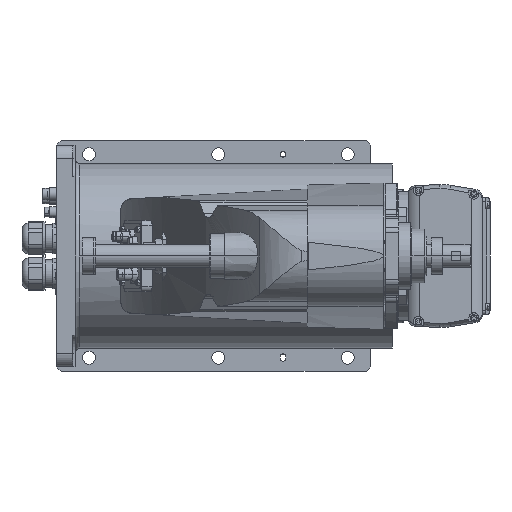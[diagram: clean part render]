
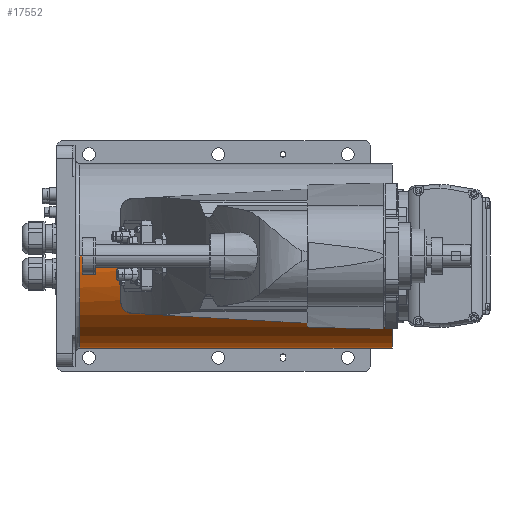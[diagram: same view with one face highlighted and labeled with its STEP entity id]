
A CAD part, left-side view. The second image highlights one B-rep face of the part: STEP entity #17552.
In plain terms, the highlighted cylindrical face has radius 100 mm (diameter 200 mm), a partial arc.
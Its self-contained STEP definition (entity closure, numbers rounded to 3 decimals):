
#9702 = EDGE_CURVE( '', #19866, #24156, #28172, .T. );
#9800 = EDGE_CURVE( '', #17726, #27614, #28283, .T. );
#9918 = EDGE_CURVE( '', #16210, #25114, #28416, .T. );
#10896 = EDGE_CURVE( '', #16210, #19866, #29530, .T. );
#11204 = VERTEX_POINT( '', #29870 );
#11368 = VERTEX_POINT( '', #30047 );
#13932 = EDGE_CURVE( '', #11204, #18312, #32907, .T. );
#14124 = VERTEX_POINT( '', #33116 );
#14388 = EDGE_CURVE( '', #27614, #11368, #33396, .T. );
#15458 = EDGE_CURVE( '', #27314, #17726, #34596, .T. );
#16210 = VERTEX_POINT( '', #35460 );
#17552 = ADVANCED_FACE( '', ( #36956 ), #36957, .T. );
#17726 = VERTEX_POINT( '', #37149 );
#18312 = VERTEX_POINT( '', #37800 );
#18516 = EDGE_CURVE( '', #25418, #20324, #38027, .T. );
#18578 = EDGE_CURVE( '', #25114, #14124, #38094, .T. );
#19306 = VERTEX_POINT( '', #38917 );
#19544 = EDGE_CURVE( '', #11368, #18312, #39203, .T. );
#19866 = VERTEX_POINT( '', #39557 );
#20324 = VERTEX_POINT( '', #40059 );
#20792 = VERTEX_POINT( '', #40581 );
#21380 = EDGE_CURVE( '', #20324, #19306, #41236, .T. );
#22948 = EDGE_CURVE( '', #14124, #27314, #42982, .T. );
#23586 = EDGE_CURVE( '', #20792, #25418, #43693, .T. );
#24156 = VERTEX_POINT( '', #44328 );
#24918 = VERTEX_POINT( '', #45174 );
#24958 = EDGE_CURVE( '', #20792, #24918, #45218, .T. );
#25114 = VERTEX_POINT( '', #45394 );
#25188 = EDGE_CURVE( '', #24156, #19306, #45477, .T. );
#25418 = VERTEX_POINT( '', #45728 );
#27270 = EDGE_CURVE( '', #11204, #24918, #47793, .T. );
#27314 = VERTEX_POINT( '', #47840 );
#27614 = VERTEX_POINT( '', #48177 );
#28172 = CIRCLE( '', #48990, 100. );
#28283 = CIRCLE( '', #49139, 100. );
#28416 = LINE( '', #49323, #49324 );
#29530 = CIRCLE( '', #50876, 100. );
#29870 = CARTESIAN_POINT( '', ( 100., 25., 0. ) );
#30047 = CARTESIAN_POINT( '', ( 89.303, 64., -45. ) );
#32907 = LINE( '', #55725, #55726 );
#33116 = CARTESIAN_POINT( '', ( 70.42, 64., -71. ) );
#33396 = LINE( '', #56444, #56445 );
#34596 = LINE( '', #58155, #58156 );
#35460 = CARTESIAN_POINT( '', ( 66.144, 363., -75. ) );
#36956 = FACE_OUTER_BOUND( '', #61463, .T. );
#36957 = CYLINDRICAL_SURFACE( '', #61464, 100. );
#37149 = CARTESIAN_POINT( '', ( 75.993, 62., -65. ) );
#37800 = CARTESIAN_POINT( '', ( 100., 64., 0. ) );
#38027 = LINE( '', #63049, #63050 );
#38094 = B_SPLINE_CURVE_WITH_KNOTS( '', 3, ( #63133, #63134, #63135, #63136, #63137, #63138, #63139, #63140, #63141, #63142, #63143, #63144, #63145, #63146, #63147, #63148, #63149, #63150 ), .UNSPECIFIED., .F., .F., ( 4, 2, 2, 2, 2, 2, 2, 2, 4 ), ( 0., 0.75, 1.5, 2.25, 3., 4.12, 5.24, 6.36, 7.48 ), .UNSPECIFIED. );
#38917 = CARTESIAN_POINT( '', ( -100., 311.3, 0. ) );
#39203 = CIRCLE( '', #64693, 100. );
#39557 = CARTESIAN_POINT( '', ( 0., 363., -100. ) );
#40059 = CARTESIAN_POINT( '', ( -88., 311.3, -47.497 ) );
#40581 = CARTESIAN_POINT( '', ( -100., 218.3, 0. ) );
#41236 = CIRCLE( '', #67522, 100. );
#42982 = CIRCLE( '', #70020, 100. );
#43693 = CIRCLE( '', #71073, 100. );
#44328 = CARTESIAN_POINT( '', ( -100., 363., 0. ) );
#45174 = CARTESIAN_POINT( '', ( -100., 25., 0. ) );
#45218 = LINE( '', #73284, #73285 );
#45394 = CARTESIAN_POINT( '', ( 66.144, 68., -75. ) );
#45477 = LINE( '', #73656, #73657 );
#45728 = CARTESIAN_POINT( '', ( -88., 218.3, -47.497 ) );
#47793 = CIRCLE( '', #77047, 100. );
#47840 = CARTESIAN_POINT( '', ( 75.993, 64., -65. ) );
#48177 = CARTESIAN_POINT( '', ( 89.303, 62., -45. ) );
#48990 = AXIS2_PLACEMENT_3D( '', #78239, #78240, #78241 );
#49139 = AXIS2_PLACEMENT_3D( '', #78373, #78374, #78375 );
#49323 = CARTESIAN_POINT( '', ( 66.144, 215.5, -75. ) );
#49324 = VECTOR( '', #78541, 1. );
#50876 = AXIS2_PLACEMENT_3D( '', #79967, #79968, #79969 );
#55725 = CARTESIAN_POINT( '', ( 100., 194., 0. ) );
#55726 = VECTOR( '', #83787, 1. );
#56444 = CARTESIAN_POINT( '', ( 89.303, 63., -45. ) );
#56445 = VECTOR( '', #84243, 1. );
#58155 = CARTESIAN_POINT( '', ( 75.993, 63., -65. ) );
#58156 = VECTOR( '', #85683, 1. );
#61463 = EDGE_LOOP( '', ( #88457, #88458, #88459, #88460, #88461, #88462, #88463, #88464, #88465, #88466, #88467, #88468, #88469, #88470, #88471, #88472 ) );
#61464 = AXIS2_PLACEMENT_3D( '', #88473, #88474, #88475 );
#63049 = CARTESIAN_POINT( '', ( -88., 264.8, -47.497 ) );
#63050 = VECTOR( '', #89688, 1. );
#63133 = CARTESIAN_POINT( '', ( 66.144, 68., -75. ) );
#63134 = CARTESIAN_POINT( '', ( 66.144, 67.75, -75. ) );
#63135 = CARTESIAN_POINT( '', ( 66.171, 67.497, -74.976 ) );
#63136 = CARTESIAN_POINT( '', ( 66.277, 67.005, -74.882 ) );
#63137 = CARTESIAN_POINT( '', ( 66.356, 66.766, -74.812 ) );
#63138 = CARTESIAN_POINT( '', ( 66.555, 66.315, -74.636 ) );
#63139 = CARTESIAN_POINT( '', ( 66.674, 66.103, -74.529 ) );
#63140 = CARTESIAN_POINT( '', ( 66.938, 65.716, -74.292 ) );
#63141 = CARTESIAN_POINT( '', ( 67.082, 65.542, -74.162 ) );
#63142 = CARTESIAN_POINT( '', ( 67.446, 65.158, -73.831 ) );
#63143 = CARTESIAN_POINT( '', ( 67.688, 64.954, -73.61 ) );
#63144 = CARTESIAN_POINT( '', ( 68.203, 64.604, -73.134 ) );
#63145 = CARTESIAN_POINT( '', ( 68.475, 64.457, -72.879 ) );
#63146 = CARTESIAN_POINT( '', ( 69.031, 64.224, -72.352 ) );
#63147 = CARTESIAN_POINT( '', ( 69.316, 64.139, -72.08 ) );
#63148 = CARTESIAN_POINT( '', ( 69.877, 64.026, -71.535 ) );
#63149 = CARTESIAN_POINT( '', ( 70.155, 64., -71.263 ) );
#63150 = CARTESIAN_POINT( '', ( 70.42, 64., -71. ) );
#64693 = AXIS2_PLACEMENT_3D( '', #91122, #91123, #91124 );
#67522 = AXIS2_PLACEMENT_3D( '', #93351, #93352, #93353 );
#70020 = AXIS2_PLACEMENT_3D( '', #95317, #95318, #95319 );
#71073 = AXIS2_PLACEMENT_3D( '', #96140, #96141, #96142 );
#73284 = CARTESIAN_POINT( '', ( -100., 194., 0. ) );
#73285 = VECTOR( '', #97829, 1. );
#73656 = CARTESIAN_POINT( '', ( -100., 194., 0. ) );
#73657 = VECTOR( '', #98153, 1. );
#77047 = AXIS2_PLACEMENT_3D( '', #100814, #100815, #100816 );
#78239 = CARTESIAN_POINT( '', ( 0., 363., 0. ) );
#78240 = DIRECTION( '', ( 0., 1., 0. ) );
#78241 = DIRECTION( '', ( 1., 0., 0. ) );
#78373 = CARTESIAN_POINT( '', ( 0., 62., 0. ) );
#78374 = DIRECTION( '', ( 0., -1., 0. ) );
#78375 = DIRECTION( '', ( 1., 0., 0. ) );
#78541 = DIRECTION( '', ( 0., -1., 0. ) );
#79967 = CARTESIAN_POINT( '', ( 0., 363., 0. ) );
#79968 = DIRECTION( '', ( 0., 1., 0. ) );
#79969 = DIRECTION( '', ( 1., 0., 0. ) );
#83787 = DIRECTION( '', ( 0., 1., 0. ) );
#84243 = DIRECTION( '', ( 0., 1., 0. ) );
#85683 = DIRECTION( '', ( 0., -1., 0. ) );
#88457 = ORIENTED_EDGE( '', *, *, #13932, .F. );
#88458 = ORIENTED_EDGE( '', *, *, #27270, .T. );
#88459 = ORIENTED_EDGE( '', *, *, #24958, .F. );
#88460 = ORIENTED_EDGE( '', *, *, #23586, .T. );
#88461 = ORIENTED_EDGE( '', *, *, #18516, .T. );
#88462 = ORIENTED_EDGE( '', *, *, #21380, .T. );
#88463 = ORIENTED_EDGE( '', *, *, #25188, .F. );
#88464 = ORIENTED_EDGE( '', *, *, #9702, .F. );
#88465 = ORIENTED_EDGE( '', *, *, #10896, .F. );
#88466 = ORIENTED_EDGE( '', *, *, #9918, .T. );
#88467 = ORIENTED_EDGE( '', *, *, #18578, .T. );
#88468 = ORIENTED_EDGE( '', *, *, #22948, .T. );
#88469 = ORIENTED_EDGE( '', *, *, #15458, .T. );
#88470 = ORIENTED_EDGE( '', *, *, #9800, .T. );
#88471 = ORIENTED_EDGE( '', *, *, #14388, .T. );
#88472 = ORIENTED_EDGE( '', *, *, #19544, .T. );
#88473 = CARTESIAN_POINT( '', ( 0., 194., 0. ) );
#88474 = DIRECTION( '', ( 0., -1., 0. ) );
#88475 = DIRECTION( '', ( 1., 0., 0. ) );
#89688 = DIRECTION( '', ( 0., 1., 0. ) );
#91122 = CARTESIAN_POINT( '', ( 0., 64., 0. ) );
#91123 = DIRECTION( '', ( 0., -1., 0. ) );
#91124 = DIRECTION( '', ( 1., 0., 0. ) );
#93351 = CARTESIAN_POINT( '', ( 0., 311.3, 0. ) );
#93352 = DIRECTION( '', ( 0., 1., 0. ) );
#93353 = DIRECTION( '', ( 1., 0., 0. ) );
#95317 = CARTESIAN_POINT( '', ( 0., 64., 0. ) );
#95318 = DIRECTION( '', ( 0., -1., 0. ) );
#95319 = DIRECTION( '', ( 1., 0., 0. ) );
#96140 = CARTESIAN_POINT( '', ( 0., 218.3, 0. ) );
#96141 = DIRECTION( '', ( 0., -1., 0. ) );
#96142 = DIRECTION( '', ( 1., 0., 0. ) );
#97829 = DIRECTION( '', ( 0., -1., 0. ) );
#98153 = DIRECTION( '', ( 0., -1., 0. ) );
#100814 = CARTESIAN_POINT( '', ( 0., 25., 0. ) );
#100815 = DIRECTION( '', ( 0., 1., 0. ) );
#100816 = DIRECTION( '', ( 1., 0., 0. ) );
